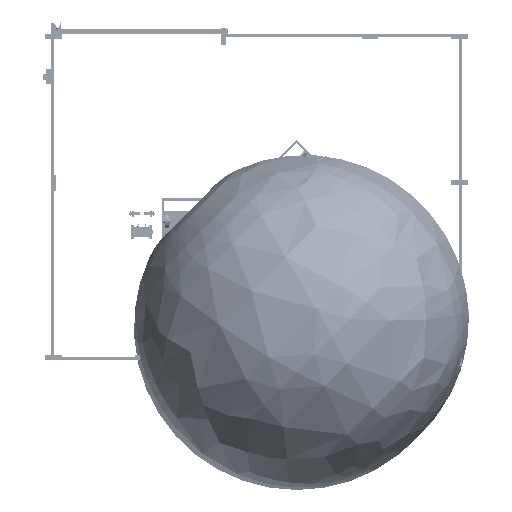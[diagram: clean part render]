
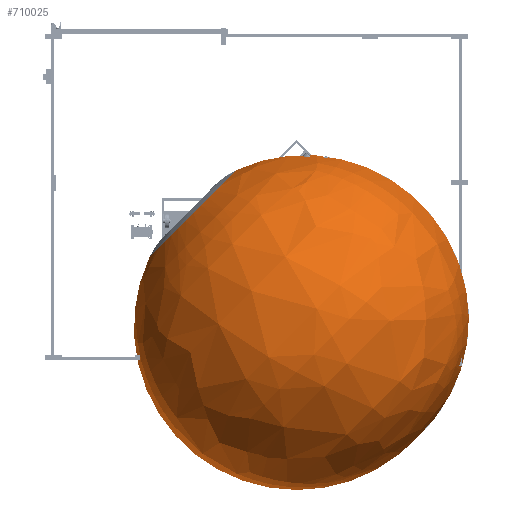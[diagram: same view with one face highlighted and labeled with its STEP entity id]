
A CAD part, front view. The second image highlights one B-rep face of the part: STEP entity #710025.
In plain terms, the highlighted free-form (B-spline) face has degree [3, 3] with [4, 4] control points.
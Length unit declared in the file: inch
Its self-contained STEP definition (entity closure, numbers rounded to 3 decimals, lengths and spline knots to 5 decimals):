
#8684 = CARTESIAN_POINT ( 'NONE',  ( -18.35761, 49.06041, 48.2324 ) ) ;
#44676 = AXIS2_PLACEMENT_3D ( 'NONE', #354189, #520595, #346541 ) ;
#66746 = FACE_OUTER_BOUND ( 'NONE', #68921, .T. ) ;
#68921 = EDGE_LOOP ( 'NONE', ( #162379, #486388, #126091 ) ) ;
#70573 = CARTESIAN_POINT ( 'NONE',  ( -123.08527, 21.70325, 12.42279 ) ) ;
#79310 = DIRECTION ( 'NONE',  ( -0.985, 0.174, 0. ) ) ;
#90447 = EDGE_CURVE ( 'NONE', #635729, #230174, #180692, .T. ) ;
#113475 = CARTESIAN_POINT ( 'NONE',  ( 0., 0., -85.80317 ) ) ;
#126091 = ORIENTED_EDGE ( 'NONE', *, *, #288816, .T. ) ;
#154508 =( BOUNDED_SURFACE ( )  B_SPLINE_SURFACE ( 3, 3, ( 
 ( #302597, #179088, #8684, #465201 ),
 ( #716368, #658310, #600173, #70573 ),
 ( #523124, #701070, #171477, #407204 ),
 ( #113475, #349132, #433861, #604010 ) ),
 .UNSPECIFIED., .F., .F., .F. ) 
 B_SPLINE_SURFACE_WITH_KNOTS ( ( 4, 4 ),
 ( 4, 4 ),
 ( 0., 1. ),
 ( 0., 1. ),
 .UNSPECIFIED. ) 
 GEOMETRIC_REPRESENTATION_ITEM ( )  RATIONAL_B_SPLINE_SURFACE ( (
 ( 1., 0.391, 0.391, 1.),
 ( 0.435, 0.17, 0.17, 0.435),
 ( 0.435, 0.17, 0.17, 0.435),
 ( 1., 0.391, 0.391, 1.) ) ) 
 REPRESENTATION_ITEM ( '' )  SURFACE ( )  );
#159142 = CARTESIAN_POINT ( 'NONE',  ( 2.95276, 0., -16.73228 ) ) ;
#162379 = ORIENTED_EDGE ( 'NONE', *, *, #90447, .T. ) ;
#171477 = CARTESIAN_POINT ( 'NONE',  ( -72.19699, 192.94524, -90.27499 ) ) ;
#179088 = CARTESIAN_POINT ( 'NONE',  ( 26.59797, 45.1273, 48.2324 ) ) ;
#180692 = CIRCLE ( 'NONE', #44676, 26.59797 ) ;
#195565 = DIRECTION ( 'NONE',  ( 0.174, 0.985, 0. ) ) ;
#230174 = VERTEX_POINT ( 'NONE', #754831 ) ;
#252192 = AXIS2_PLACEMENT_3D ( 'NONE', #253450, #195565, #79310 ) ;
#253450 = CARTESIAN_POINT ( 'NONE',  ( -2.9079, 0.51274, -16.73228 ) ) ;
#254759 = EDGE_CURVE ( 'NONE', #230174, #325536, #588379, .T. ) ;
#266935 = CARTESIAN_POINT ( 'NONE',  ( -26.19389, 4.61869, 48.2324 ) ) ;
#267690 = CARTESIAN_POINT ( 'NONE',  ( 0., 0., -85.80317 ) ) ;
#288816 = EDGE_CURVE ( 'NONE', #325536, #635729, #486672, .T. ) ;
#302597 = CARTESIAN_POINT ( 'NONE',  ( 26.59797, 0., 48.2324 ) ) ;
#325536 = VERTEX_POINT ( 'NONE', #267690 ) ;
#346541 = DIRECTION ( 'NONE',  ( 1., 0., 0. ) ) ;
#349132 = CARTESIAN_POINT ( 'NONE',  ( 0., 0., -85.80317 ) ) ;
#354189 = CARTESIAN_POINT ( 'NONE',  ( 0., 0., 48.2324 ) ) ;
#378733 = AXIS2_PLACEMENT_3D ( 'NONE', #159142, #739094, #561136 ) ;
#407204 = CARTESIAN_POINT ( 'NONE',  ( -103.01557, 18.16442, -90.27499 ) ) ;
#433861 = CARTESIAN_POINT ( 'NONE',  ( 0., 0., -85.80317 ) ) ;
#465201 = CARTESIAN_POINT ( 'NONE',  ( -26.19389, 4.61869, 48.2324 ) ) ;
#486388 = ORIENTED_EDGE ( 'NONE', *, *, #254759, .T. ) ;
#486672 = CIRCLE ( 'NONE', #252192, 69.13397 ) ;
#520595 = DIRECTION ( 'NONE',  ( 0., 0., -1. ) ) ;
#523124 = CARTESIAN_POINT ( 'NONE',  ( 104.60475, 0., -90.27499 ) ) ;
#561136 = DIRECTION ( 'NONE',  ( 1., 0., 0. ) ) ;
#588379 = CIRCLE ( 'NONE', #378733, 69.13397 ) ;
#600173 = CARTESIAN_POINT ( 'NONE',  ( -86.26256, 230.53523, 12.42279 ) ) ;
#604010 = CARTESIAN_POINT ( 'NONE',  ( 0., 0., -85.80317 ) ) ;
#635729 = VERTEX_POINT ( 'NONE', #266935 ) ;
#658310 = CARTESIAN_POINT ( 'NONE',  ( 124.98406, 212.05354, 12.42279 ) ) ;
#701070 = CARTESIAN_POINT ( 'NONE',  ( 104.60475, 177.4771, -90.27499 ) ) ;
#710025 = ADVANCED_FACE ( 'NONE', ( #66746 ), #154508, .T. ) ;
#716368 = CARTESIAN_POINT ( 'NONE',  ( 124.98406, 0., 12.42279 ) ) ;
#739094 = DIRECTION ( 'NONE',  ( 0., 1., 0. ) ) ;
#754831 = CARTESIAN_POINT ( 'NONE',  ( 26.59797, 0., 48.2324 ) ) ;
